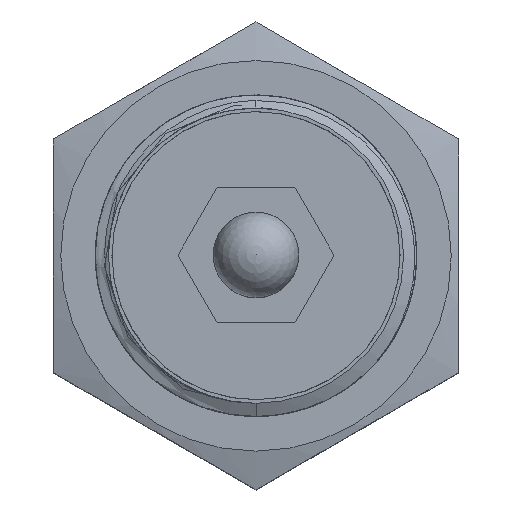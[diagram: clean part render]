
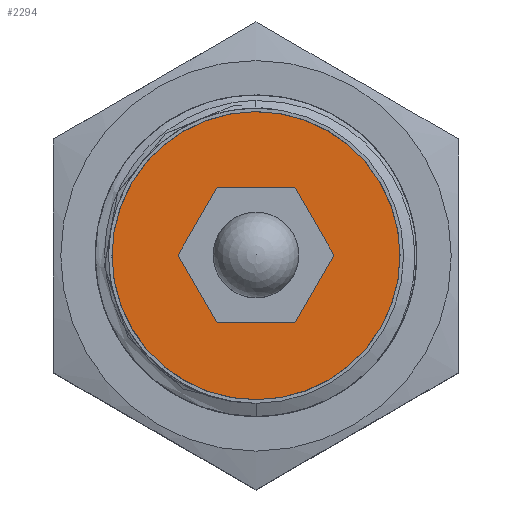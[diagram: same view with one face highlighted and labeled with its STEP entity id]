
A CAD part, top view. The second image highlights one B-rep face of the part: STEP entity #2294.
In plain terms, the highlighted planar face has unit normal (0, 0, 1) as drawn and (0, 0, -1) by its records, which use the part's own axes.
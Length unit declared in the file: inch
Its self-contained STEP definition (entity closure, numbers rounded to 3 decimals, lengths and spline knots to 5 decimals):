
#128=FACE_BOUND('',#405,.T.);
#146=PLANE('',#2613);
#253=FACE_OUTER_BOUND('',#404,.T.);
#404=EDGE_LOOP('',(#1724));
#405=EDGE_LOOP('',(#1725));
#536=CIRCLE('',#2607,0.135);
#539=CIRCLE('',#2611,0.336);
#1037=VERTEX_POINT('',#8169);
#1040=VERTEX_POINT('',#8177);
#1291=EDGE_CURVE('',#1037,#1037,#536,.T.);
#1296=EDGE_CURVE('',#1040,#1040,#539,.T.);
#1724=ORIENTED_EDGE('',*,*,#1296,.F.);
#1725=ORIENTED_EDGE('',*,*,#1291,.T.);
#2294=ADVANCED_FACE('',(#253,#128),#146,.F.);
#2607=AXIS2_PLACEMENT_3D('',#8170,#2922,#2923);
#2611=AXIS2_PLACEMENT_3D('',#8179,#2932,#2933);
#2613=AXIS2_PLACEMENT_3D('',#8181,#2936,#2937);
#2922=DIRECTION('center_axis',(0.,0.,1.));
#2923=DIRECTION('ref_axis',(1.,0.,0.));
#2932=DIRECTION('center_axis',(0.,0.,1.));
#2933=DIRECTION('ref_axis',(1.,0.,0.));
#2936=DIRECTION('center_axis',(0.,0.,1.));
#2937=DIRECTION('ref_axis',(1.,0.,0.));
#8169=CARTESIAN_POINT('',(-0.135,0.,0.));
#8170=CARTESIAN_POINT('Origin',(0.,0.,0.));
#8177=CARTESIAN_POINT('',(-0.336,0.,0.));
#8179=CARTESIAN_POINT('Origin',(0.,0.,0.));
#8181=CARTESIAN_POINT('Origin',(0.,0.,0.));
